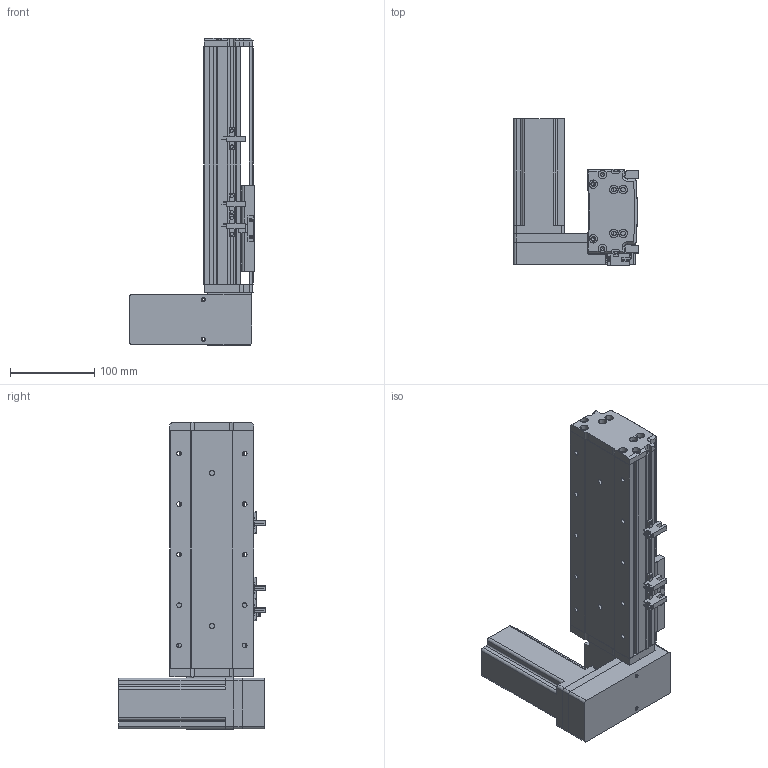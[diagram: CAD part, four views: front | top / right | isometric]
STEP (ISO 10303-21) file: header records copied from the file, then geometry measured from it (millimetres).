
FILE_DESCRIPTION (( 'STEP AP214' ), '1' );
FILE_NAME ('KSD100B-S100-MRD-CM.STEP', '2019-10-16T07:16:56', ( '微软用户' ), ( '微软中国' ), 'SwSTEP 2.0', 'SolidWorks 2014', '' );
FILE_SCHEMA (( 'AUTOMOTIVE_DESIGN' ));
Length unit declared in the file: millimetre
Products named in the file (12): U倰嫖萇EEㄜSX672; 覜茼え100遵圉猾敕; 100宽防尘板100行程-同步带; 100宽马达安装板同步带右; 100宽同步带安装板半封闭; 100宽马达安装板同步带; 100遵傷啣肮祭湍; 100宽底板半封闭同步带100行程; KSD100B-S100-MRD-CM; 悵誘欶奻狟殏; 100宽马达安装板连板上下折丝杆同步带; 台达ECMA－C20604AS伺服电机
Assembly tree (13 placements, depth 2):
  KSD100B-S100-MRD-CM
    100宽底板半封闭同步带100行程
    100遵傷啣肮祭湍
    100宽马达安装板同步带
    100宽同步带安装板半封闭
    100宽马达安装板同步带右
    100宽防尘板100行程-同步带
    覜茼え100遵圉猾敕
    U倰嫖萇EEㄜSX672  x3
    台达ECMA－C20604AS伺服电机
    100宽马达安装板连板上下折丝杆同步带
    悵誘欶奻狟殏
Bounding box: 148 x 174.7 x 365 mm (x, y, z)
Volume: 1316379.3 mm3; surface area: 386800.4 mm2
Topology: 14 solids, 14 shells, 1259 faces, 3522 edges, 2277 vertices
Faces by surface type: cylinder 609, plane 571, cone 79
Entity records: 43311 total; most frequent: CARTESIAN_POINT 7840, DIRECTION 6038, ORIENTED_EDGE 5792, EDGE_CURVE 2896, AXIS2_PLACEMENT_3D 2181, VERTEX_POINT 1901, VECTOR 1676, LINE 1676
